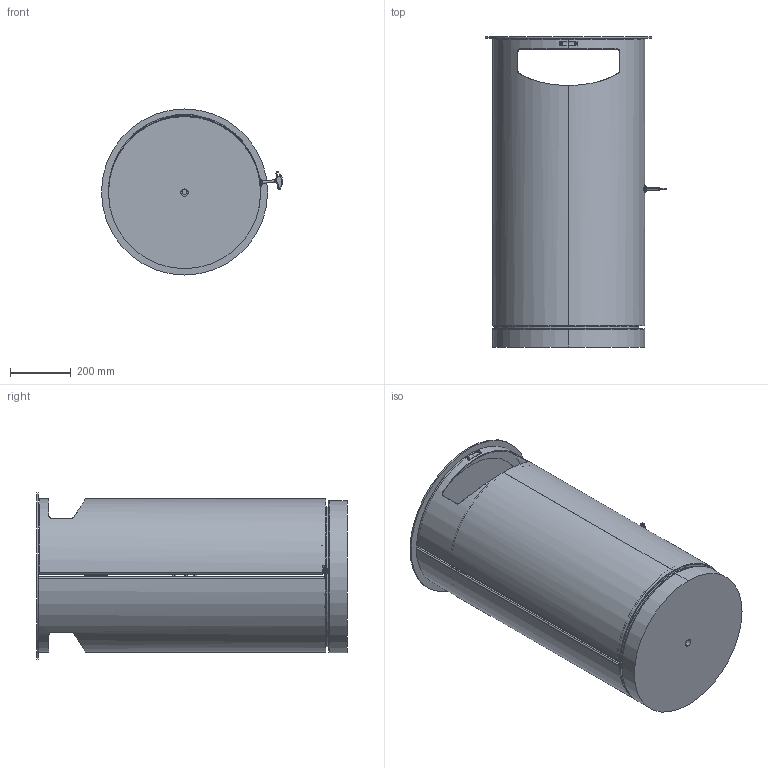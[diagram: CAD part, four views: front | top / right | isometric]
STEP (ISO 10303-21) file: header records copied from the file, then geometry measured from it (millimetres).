
FILE_DESCRIPTION (( 'STEP AP214' ), '1' );
FILE_NAME ('AS2405331.STEP', '2024-09-12T15:02:30', ( '' ), ( '' ), 'SwSTEP 2.0', 'SolidWorks 2022', '' );
FILE_SCHEMA (( 'AUTOMOTIVE_DESIGN' ));
Length unit declared in the file: millimetre
Products named in the file (36): 8460680; CCEG00001; 7167931; 8950110; 8409540; CLAM00067; 8399320; CCEH00004; CTUB00028; 8430520; CLAM00061; CLAM00068; 8491910; 8404270; CVAR00003; 8491480_D=501; CCEN00002; 8404260; CLAM00056; 8409510; PA2302373; CLAM00070; 8460890; CLAM00062; 8460940; CLAM00065; 8410570; CTUB00029; CLAM00064; 8404040; 8492040; AS2405331; CLAM00066; 8400400; 8409330; 8409530
Assembly tree (56 placements, depth 3):
  AS2405331
    CCEH00004
      CLAM00068
      CLAM00061
      CLAM00056
      CTUB00028  x2
      CLAM00062
      CLAM00070
      7167931
    CCEN00002
      CLAM00067
      CLAM00056  x3
    CCEG00001
      CLAM00064
      CLAM00065
      CTUB00029
    8460940
    8460680
    CLAM00066
    8491910  x2
    CVAR00003  x2
    8950110
    8491480_D=501
    8460890
    8399320  x2
    8409540
    8404260
    8492040  x3
    8409530
    8404040
    8400400  x2
    8409510  x2
    8409330  x2
    8410570
    8430520  x4
    PA2302373  x4
    8404270  x4
Bounding box: 595.02 x 1020 x 546 mm (x, y, z)
Volume: 20593825.8 mm3; surface area: 4740569.9 mm2
Topology: 55 solids, 55 shells, 1303 faces, 3188 edges, 1994 vertices
Faces by surface type: plane 528, cylinder 459, cone 158, torus 106, bspline 50, sphere 2
Entity records: 35506 total; most frequent: CARTESIAN_POINT 11854, DIRECTION 4663, ORIENTED_EDGE 4436, EDGE_CURVE 2218, AXIS2_PLACEMENT_3D 1860, VERTEX_POINT 1391, EDGE_LOOP 1007, CIRCLE 951
